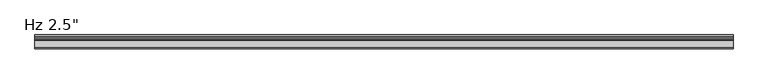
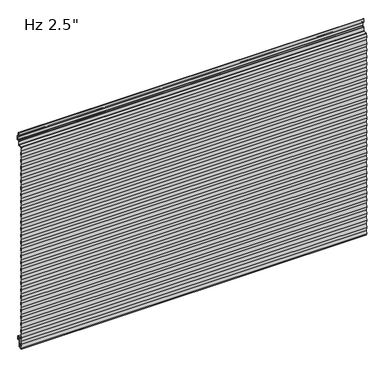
"""IFC4 building model written with IfcOpenShell, lengths in millimetres: plate geometry."""

from ifc_helpers import new_model, si_unit, point, frame, origin, place, context, project, spatial, polyline, circle_curve, ellipse_curve, trimmed, source, transform, mapped, element, save
from ifc_brep_helpers import plane_surface, cylinder_surface, revolved_surface, extruded_surface, advanced_brep


def plate_efaa990c(model_context):
    return source(origin(), model_context, "Body", "AdvancedBrep", [
        advanced_brep(
        [(-730.0, -38.1, -23.2314549), (-730.0, -39.6875, -23.2314549), (-730.0, -39.6875, -11.9205174), (-730.0, -47.625, -11.9205174), (-730.0, -47.625, -50.1038221), (-730.0, -49.881625, -52.4818086), (-730.0, -64.0543553, -53.22457), (-730.0, -64.7509395, -48.8709186), (-730.0, -62.3125395, -33.6309186), (-730.0, -64.7509395, -18.3909186), (-730.0, -62.3125395, -3.1509186), (-730.0, -64.7509395, 12.0890814), (-730.0, -62.3125395, 27.3290814), (-730.0, -64.7509395, 42.5690814), (-730.0, -62.3125395, 57.8090814), (-730.0, -64.7509395, 73.0490814), (-730.0, -62.3125395, 88.2890814), (-730.0, -64.7509395, 103.5290814), (-730.0, -62.3125395, 118.7690814), (-730.0, -64.7509395, 134.0090814), (-730.0, -62.3125395, 149.2490814), (-730.0, -64.7509395, 164.4890814), (-730.0, -62.3125395, 179.7290814), (-730.0, -64.7509395, 194.9690814), (-730.0, -62.3125395, 210.2090814), (-730.0, -64.7509395, 225.4490814), (-730.0, -62.3125395, 240.6890814), (-730.0, -64.7509395, 255.9290814), (-730.0, -62.3125395, 271.1690814), (-730.0, -64.7509395, 286.4090814), (-730.0, -62.3125395, 301.6490814), (-730.0, -64.7509395, 316.8890814), (-730.0, -62.3125395, 332.1290814), (-730.0, -64.7509395, 347.3690814), (-730.0, -62.3125395, 362.6090814), (-730.0, -64.7509395, 377.8490814), (-730.0, -62.3125395, 393.0890814), (-730.0, -64.7509395, 408.3290814), (-730.0, -62.3125395, 423.5690814), (-730.0, -64.7509395, 438.8090814), (-730.0, -62.3125395, 454.0490814), (-730.0, -64.7509395, 469.2890814), (-730.0, -62.3125395, 484.5290814), (-730.0, -64.7509395, 499.7690814), (-730.0, -62.3125395, 515.0090814), (-730.0, -64.7509395, 530.2490814), (-730.0, -62.3125395, 545.4890814), (-730.0, -64.7509395, 560.7290814), (-730.0, -62.3125395, 575.9690814), (-730.0, -64.7509395, 591.2090814), (-730.0, -62.3125395, 606.4490814), (-730.0, -64.7509395, 621.6890814), (-730.0, -62.3125395, 636.9290814), (-730.0, -64.7509395, 652.1690814), (-730.0, -62.3125395, 667.4090814), (-730.0, -64.7509395, 682.6490814), (-730.0, -62.3125395, 697.8890814), (-730.0, -64.7509395, 713.1290814), (-730.0, -62.3125395, 728.3690814), (-730.0, -64.7509395, 743.6090814), (-730.0, -62.3125395, 758.8490814), (-730.0, -64.7509395, 774.0890814), (-730.0, -62.3125395, 789.3290814), (-730.0, -64.7509395, 804.5690814), (-730.0, -62.3125395, 819.8090814), (-730.0, -64.7185287, 834.8465139), (-730.0, -62.7278537, 847.2882328), (-730.0, -61.243375, 848.6227473), (-730.0, -47.5419167, 849.3408103), (-730.0, -46.0375, 850.9261347), (-730.0, -46.0375, 865.0824411), (-730.0, -43.780875, 867.4604276), (-730.0, -38.0169167, 867.7625039), (-730.0, -36.5125, 869.3478283), (-730.0, -36.5125, 884.2232326), (-730.0, -38.1, 885.8107326), (-730.0, -42.2671875, 885.8107326), (-730.0, -44.6484375, 888.1919826), (-730.0, -44.6484375, 902.6836032), (-730.0, -42.8546875, 902.6836032), (-730.0, -42.8546875, 892.9544826), (-730.0, -43.6484375, 892.9544826), (-730.0, -43.6484375, 888.1919826), (-730.0, -42.2671875, 886.8107326), (-730.0, -38.1, 886.8107326), (-730.0, -35.5125, 884.2232326), (-730.0, -35.5125, 869.3478283), (-730.0, -37.9645807, 866.7638744), (-730.0, -43.728539, 866.4617981), (-730.0, -45.0375, 865.0824411), (-730.0, -45.0375, 850.9261347), (-730.0, -47.4895807, 848.3421807), (-730.0, -61.191039, 847.6241177), (-730.0, -61.740413, 847.1302423), (-730.0, -63.7058096, 834.8465139), (-730.0, -61.2998204, 819.8090814), (-730.0, -63.7382204, 804.5690814), (-730.0, -61.2998204, 789.3290814), (-730.0, -63.7382204, 774.0890814), (-730.0, -61.2998204, 758.8490814), (-730.0, -63.7382204, 743.6090814), (-730.0, -61.2998204, 728.3690814), (-730.0, -63.7382204, 713.1290814), (-730.0, -61.2998204, 697.8890814), (-730.0, -63.7382204, 682.6490814), (-730.0, -61.2998204, 667.4090814), (-730.0, -63.7382204, 652.1690814), (-730.0, -61.2998204, 636.9290814), (-730.0, -63.7382204, 621.6890814), (-730.0, -61.2998204, 606.4490814), (-730.0, -63.7382204, 591.2090814), (-730.0, -61.2998204, 575.9690814), (-730.0, -63.7382204, 560.7290814), (-730.0, -61.2998204, 545.4890814), (-730.0, -63.7382204, 530.2490814), (-730.0, -61.2998204, 515.0090814), (-730.0, -63.7382204, 499.7690814), (-730.0, -61.2998204, 484.5290814), (-730.0, -63.7382204, 469.2890814), (-730.0, -61.2998204, 454.0490814), (-730.0, -63.7382204, 438.8090814), (-730.0, -61.2998204, 423.5690814), (-730.0, -63.7382204, 408.3290814), (-730.0, -61.2998204, 393.0890814), (-730.0, -63.7382204, 377.8490814), (-730.0, -61.2998204, 362.6090814), (-730.0, -63.7382204, 347.3690814), (-730.0, -61.2998204, 332.1290814), (-730.0, -63.7382204, 316.8890814), (-730.0, -61.2998204, 301.6490814), (-730.0, -63.7382204, 286.4090814), (-730.0, -61.2998204, 271.1690814), (-730.0, -63.7382204, 255.9290814), (-730.0, -61.2998204, 240.6890814), (-730.0, -63.7382204, 225.4490814), (-730.0, -61.2998204, 210.2090814), (-730.0, -63.7382204, 194.9690814), (-730.0, -61.2998204, 179.7290814), (-730.0, -63.7382204, 164.4890814), (-730.0, -61.2998204, 149.2490814), (-730.0, -63.7382204, 134.0090814), (-730.0, -61.2998204, 118.7690814), (-730.0, -63.7382204, 103.5290814), (-730.0, -61.2998204, 88.2890814), (-730.0, -63.7382204, 73.0490814), (-730.0, -61.2998204, 57.8090814), (-730.0, -63.7382204, 42.5690814), (-730.0, -61.2998204, 27.3290814), (-730.0, -63.7382204, 12.0890814), (-730.0, -61.2998204, -3.1509186), (-730.0, -63.7382204, -18.3909186), (-730.0, -61.2998204, -33.6309186), (-730.0, -63.7382204, -48.8709186), (-730.0, -63.2089447, -52.1788915), (-730.0, -49.933961, -51.4831791), (-730.0, -48.625, -50.1038221), (-730.0, -48.625, -11.9205174), (-730.0, -38.6875, -11.9205174), (-730.0, -38.89375, -13.5080174), (-730.0, -38.1, -13.5080174), (730.0, -38.1, -23.2314549), (730.0, -38.1, -13.5080174), (730.0, -38.89375, -13.5080174), (730.0, -38.6875, -11.9205174), (730.0, -48.625, -11.9205174), (730.0, -48.625, -50.1038221), (730.0, -49.933961, -51.4831791), (730.0, -63.2089447, -52.1788915), (730.0, -63.7382204, -48.8709186), (730.0, -61.2998204, -33.6309186), (730.0, -63.7382204, -18.3909186), (730.0, -61.2998204, -3.1509186), (730.0, -63.7382204, 12.0890814), (730.0, -61.2998204, 27.3290814), (730.0, -63.7382204, 42.5690814), (730.0, -61.2998204, 57.8090814), (730.0, -63.7382204, 73.0490814), (730.0, -61.2998204, 88.2890814), (730.0, -63.7382204, 103.5290814), (730.0, -61.2998204, 118.7690814), (730.0, -63.7382204, 134.0090814), (730.0, -61.2998204, 149.2490814), (730.0, -63.7382204, 164.4890814), (730.0, -61.2998204, 179.7290814), (730.0, -63.7382204, 194.9690814), (730.0, -61.2998204, 210.2090814), (730.0, -63.7382204, 225.4490814), (730.0, -61.2998204, 240.6890814), (730.0, -63.7382204, 255.9290814), (730.0, -61.2998204, 271.1690814), (730.0, -63.7382204, 286.4090814), (730.0, -61.2998204, 301.6490814), (730.0, -63.7382204, 316.8890814), (730.0, -61.2998204, 332.1290814), (730.0, -63.7382204, 347.3690814), (730.0, -61.2998204, 362.6090814), (730.0, -63.7382204, 377.8490814), (730.0, -61.2998204, 393.0890814), (730.0, -63.7382204, 408.3290814), (730.0, -61.2998204, 423.5690814), (730.0, -63.7382204, 438.8090814), (730.0, -61.2998204, 454.0490814), (730.0, -63.7382204, 469.2890814), (730.0, -61.2998204, 484.5290814), (730.0, -63.7382204, 499.7690814), (730.0, -61.2998204, 515.0090814), (730.0, -63.7382204, 530.2490814), (730.0, -61.2998204, 545.4890814), (730.0, -63.7382204, 560.7290814), (730.0, -61.2998204, 575.9690814), (730.0, -63.7382204, 591.2090814), (730.0, -61.2998204, 606.4490814), (730.0, -63.7382204, 621.6890814), (730.0, -61.2998204, 636.9290814), (730.0, -63.7382204, 652.1690814), (730.0, -61.2998204, 667.4090814), (730.0, -63.7382204, 682.6490814), (730.0, -61.2998204, 697.8890814), (730.0, -63.7382204, 713.1290814), (730.0, -61.2998204, 728.3690814), (730.0, -63.7382204, 743.6090814), (730.0, -61.2998204, 758.8490814), (730.0, -63.7382204, 774.0890814), (730.0, -61.2998204, 789.3290814), (730.0, -63.7382204, 804.5690814), (730.0, -61.2998204, 819.8090814), (730.0, -63.7058096, 834.8465139), (730.0, -61.740413, 847.1302423), (730.0, -61.191039, 847.6241177), (730.0, -47.4895807, 848.3421807), (730.0, -45.0375, 850.9261347), (730.0, -45.0375, 865.0824411), (730.0, -43.728539, 866.4617981), (730.0, -37.9645807, 866.7638744), (730.0, -35.5125, 869.3478283), (730.0, -35.5125, 884.2232326), (730.0, -38.1, 886.8107326), (730.0, -42.2671875, 886.8107326), (730.0, -43.6484375, 888.1919826), (730.0, -43.6484375, 892.9544826), (730.0, -42.8546875, 892.9544826), (730.0, -42.8546875, 902.6836032), (730.0, -44.6484375, 902.6836032), (730.0, -44.6484375, 888.1919826), (730.0, -42.2671875, 885.8107326), (730.0, -38.1, 885.8107326), (730.0, -36.5125, 884.2232326), (730.0, -36.5125, 869.3478283), (730.0, -38.0169167, 867.7625039), (730.0, -43.780875, 867.4604276), (730.0, -46.0375, 865.0824411), (730.0, -46.0375, 850.9261347), (730.0, -47.5419167, 849.3408103), (730.0, -61.243375, 848.6227473), (730.0, -62.7278537, 847.2882328), (730.0, -64.7185287, 834.8465139), (730.0, -62.3125395, 819.8090814), (730.0, -64.7509395, 804.5690814), (730.0, -62.3125395, 789.3290814), (730.0, -64.7509395, 774.0890814), (730.0, -62.3125395, 758.8490814), (730.0, -64.7509395, 743.6090814), (730.0, -62.3125395, 728.3690814), (730.0, -64.7509395, 713.1290814), (730.0, -62.3125395, 697.8890814), (730.0, -64.7509395, 682.6490814), (730.0, -62.3125395, 667.4090814), (730.0, -64.7509395, 652.1690814), (730.0, -62.3125395, 636.9290814), (730.0, -64.7509395, 621.6890814), (730.0, -62.3125395, 606.4490814), (730.0, -64.7509395, 591.2090814), (730.0, -62.3125395, 575.9690814), (730.0, -64.7509395, 560.7290814), (730.0, -62.3125395, 545.4890814), (730.0, -64.7509395, 530.2490814), (730.0, -62.3125395, 515.0090814), (730.0, -64.7509395, 499.7690814), (730.0, -62.3125395, 484.5290814), (730.0, -64.7509395, 469.2890814), (730.0, -62.3125395, 454.0490814), (730.0, -64.7509395, 438.8090814), (730.0, -62.3125395, 423.5690814), (730.0, -64.7509395, 408.3290814), (730.0, -62.3125395, 393.0890814), (730.0, -64.7509395, 377.8490814), (730.0, -62.3125395, 362.6090814), (730.0, -64.7509395, 347.3690814), (730.0, -62.3125395, 332.1290814), (730.0, -64.7509395, 316.8890814), (730.0, -62.3125395, 301.6490814), (730.0, -64.7509395, 286.4090814), (730.0, -62.3125395, 271.1690814), (730.0, -64.7509395, 255.9290814), (730.0, -62.3125395, 240.6890814), (730.0, -64.7509395, 225.4490814), (730.0, -62.3125395, 210.2090814), (730.0, -64.7509395, 194.9690814), (730.0, -62.3125395, 179.7290814), (730.0, -64.7509395, 164.4890814), (730.0, -62.3125395, 149.2490814), (730.0, -64.7509395, 134.0090814), (730.0, -62.3125395, 118.7690814), (730.0, -64.7509395, 103.5290814), (730.0, -62.3125395, 88.2890814), (730.0, -64.7509395, 73.0490814), (730.0, -62.3125395, 57.8090814), (730.0, -64.7509395, 42.5690814), (730.0, -62.3125395, 27.3290814), (730.0, -64.7509395, 12.0890814), (730.0, -62.3125395, -3.1509186), (730.0, -64.7509395, -18.3909186), (730.0, -62.3125395, -33.6309186), (730.0, -64.7509395, -48.8709186), (730.0, -64.0543553, -53.22457), (730.0, -49.881625, -52.4818086), (730.0, -47.625, -50.1038221), (730.0, -47.625, -11.9205174), (730.0, -39.6875, -11.9205174), (730.0, -39.6875, -23.2314549)],
        [
            (0, 1, circle_curve(frame((-730.0, -38.89375, -23.2314549), z_axis=(-1.0, 0.0, 0.0), x_axis=(0.0, 0.0, 1.0)), 0.79375)),
            (1, 2),
            (2, 3, circle_curve(frame((-730.0, -43.65625, -11.9205174), z_axis=(1.0, 0.0, 0.0), x_axis=(0.0, 0.0, 1.0)), 3.96875)),
            (3, 4),
            (4, 5, circle_curve(frame((-730.0, -50.00625, -50.1038221), z_axis=(-1.0, 0.0, 0.0), x_axis=(0.0, 0.0, 1.0)), 2.38125)),
            (5, 6),
            (6, 7),
            (7, 8),
            (8, 9),
            (9, 10),
            (10, 11),
            (11, 12),
            (12, 13),
            (13, 14),
            (14, 15),
            (15, 16),
            (16, 17),
            (17, 18),
            (18, 19),
            (19, 20),
            (20, 21),
            (21, 22),
            (22, 23),
            (23, 24),
            (24, 25),
            (25, 26),
            (26, 27),
            (27, 28),
            (28, 29),
            (29, 30),
            (30, 31),
            (31, 32),
            (32, 33),
            (33, 34),
            (34, 35),
            (35, 36),
            (36, 37),
            (37, 38),
            (38, 39),
            (39, 40),
            (40, 41),
            (41, 42),
            (42, 43),
            (43, 44),
            (44, 45),
            (45, 46),
            (46, 47),
            (47, 48),
            (48, 49),
            (49, 50),
            (50, 51),
            (51, 52),
            (52, 53),
            (53, 54),
            (54, 55),
            (55, 56),
            (56, 57),
            (57, 58),
            (58, 59),
            (59, 60),
            (60, 61),
            (61, 62),
            (62, 63),
            (63, 64),
            (64, 65),
            (65, 66),
            (66, 67, circle_curve(frame((-730.0, -61.1602917, 847.0374229), z_axis=(-1.0, 0.0, 0.0), x_axis=(0.0, 0.0, 1.0)), 1.5875)),
            (67, 68),
            (68, 69, circle_curve(frame((-730.0, -47.625, 850.9261347), z_axis=(1.0, 0.0, 0.0), x_axis=(0.0, 0.0, 1.0)), 1.5875)),
            (69, 70),
            (70, 71, circle_curve(frame((-730.0, -43.65625, 865.0824411), z_axis=(-1.0, 0.0, 0.0), x_axis=(0.0, 0.0, 1.0)), 2.38125)),
            (71, 72),
            (72, 73, circle_curve(frame((-730.0, -38.1, 869.3478283), z_axis=(1.0, 0.0, 0.0), x_axis=(0.0, 0.0, 1.0)), 1.5875)),
            (73, 74),
            (74, 75, circle_curve(frame((-730.0, -38.1, 884.2232326), z_axis=(1.0, 0.0, 0.0), x_axis=(0.0, 0.0, 1.0)), 1.5875)),
            (75, 76),
            (76, 77, circle_curve(frame((-730.0, -42.2671875, 888.1919826), z_axis=(-1.0, 0.0, 0.0), x_axis=(0.0, 0.0, 1.0)), 2.38125)),
            (77, 78),
            (78, 79, ellipse_curve(frame((-730.0, -43.7515625, 902.6836032), z_axis=(-1.0, 0.0, 0.0), x_axis=(0.0, 1.0, 0.0)), 0.896875, 0.7852275)),
            (79, 80),
            (80, 81),
            (81, 82),
            (82, 83, circle_curve(frame((-730.0, -42.2671875, 888.1919826), z_axis=(1.0, 0.0, 0.0), x_axis=(0.0, 0.0, 1.0)), 1.38125)),
            (83, 84),
            (84, 85, circle_curve(frame((-730.0, -38.1, 884.2232326), z_axis=(-1.0, 0.0, 0.0), x_axis=(0.0, 0.0, 1.0)), 2.5875)),
            (85, 86),
            (86, 87, circle_curve(frame((-730.0, -38.1, 869.3478283), z_axis=(-1.0, 0.0, 0.0), x_axis=(0.0, 0.0, 1.0)), 2.5875)),
            (87, 88),
            (88, 89, circle_curve(frame((-730.0, -43.65625, 865.0824411), z_axis=(1.0, 0.0, 0.0), x_axis=(0.0, 0.0, 1.0)), 1.38125)),
            (89, 90),
            (90, 91, circle_curve(frame((-730.0, -47.625, 850.9261347), z_axis=(-1.0, 0.0, 0.0), x_axis=(0.0, 0.0, 1.0)), 2.5875)),
            (91, 92),
            (92, 93, circle_curve(frame((-730.0, -61.1602917, 847.0374229), z_axis=(1.0, 0.0, 0.0), x_axis=(0.0, 0.0, 1.0)), 0.5875)),
            (93, 94),
            (94, 95),
            (95, 96),
            (96, 97),
            (97, 98),
            (98, 99),
            (99, 100),
            (100, 101),
            (101, 102),
            (102, 103),
            (103, 104),
            (104, 105),
            (105, 106),
            (106, 107),
            (107, 108),
            (108, 109),
            (109, 110),
            (110, 111),
            (111, 112),
            (112, 113),
            (113, 114),
            (114, 115),
            (115, 116),
            (116, 117),
            (117, 118),
            (118, 119),
            (119, 120),
            (120, 121),
            (121, 122),
            (122, 123),
            (123, 124),
            (124, 125),
            (125, 126),
            (126, 127),
            (127, 128),
            (128, 129),
            (129, 130),
            (130, 131),
            (131, 132),
            (132, 133),
            (133, 134),
            (134, 135),
            (135, 136),
            (136, 137),
            (137, 138),
            (138, 139),
            (139, 140),
            (140, 141),
            (141, 142),
            (142, 143),
            (143, 144),
            (144, 145),
            (145, 146),
            (146, 147),
            (147, 148),
            (148, 149),
            (149, 150),
            (150, 151),
            (151, 152),
            (152, 153),
            (153, 154),
            (154, 155, circle_curve(frame((-730.0, -50.00625, -50.1038221), z_axis=(1.0, 0.0, 0.0), x_axis=(0.0, 0.0, 1.0)), 1.38125)),
            (155, 156),
            (156, 157, circle_curve(frame((-730.0, -43.65625, -11.9205174), z_axis=(-1.0, 0.0, 0.0), x_axis=(0.0, 0.0, 1.0)), 4.96875)),
            (157, 158),
            (158, 159),
            (159, 0),
            (160, 161),
            (161, 162),
            (162, 163),
            (163, 164, circle_curve(frame((730.0, -43.65625, -11.9205174), z_axis=(1.0, 0.0, 0.0), x_axis=(0.0, 0.0, 1.0)), 4.96875)),
            (164, 165),
            (165, 166, circle_curve(frame((730.0, -50.00625, -50.1038221), z_axis=(-1.0, 0.0, 0.0), x_axis=(0.0, 0.0, 1.0)), 1.38125)),
            (166, 167),
            (167, 168),
            (168, 169),
            (169, 170),
            (170, 171),
            (171, 172),
            (172, 173),
            (173, 174),
            (174, 175),
            (175, 176),
            (176, 177),
            (177, 178),
            (178, 179),
            (179, 180),
            (180, 181),
            (181, 182),
            (182, 183),
            (183, 184),
            (184, 185),
            (185, 186),
            (186, 187),
            (187, 188),
            (188, 189),
            (189, 190),
            (190, 191),
            (191, 192),
            (192, 193),
            (193, 194),
            (194, 195),
            (195, 196),
            (196, 197),
            (197, 198),
            (198, 199),
            (199, 200),
            (200, 201),
            (201, 202),
            (202, 203),
            (203, 204),
            (204, 205),
            (205, 206),
            (206, 207),
            (207, 208),
            (208, 209),
            (209, 210),
            (210, 211),
            (211, 212),
            (212, 213),
            (213, 214),
            (214, 215),
            (215, 216),
            (216, 217),
            (217, 218),
            (218, 219),
            (219, 220),
            (220, 221),
            (221, 222),
            (222, 223),
            (223, 224),
            (224, 225),
            (225, 226),
            (226, 227),
            (227, 228, circle_curve(frame((730.0, -61.1602917, 847.0374229), z_axis=(-1.0, 0.0, 0.0), x_axis=(0.0, 0.0, 1.0)), 0.5875)),
            (228, 229),
            (229, 230, circle_curve(frame((730.0, -47.625, 850.9261347), z_axis=(1.0, 0.0, 0.0), x_axis=(0.0, 0.0, 1.0)), 2.5875)),
            (230, 231),
            (231, 232, circle_curve(frame((730.0, -43.65625, 865.0824411), z_axis=(-1.0, 0.0, 0.0), x_axis=(0.0, 0.0, 1.0)), 1.38125)),
            (232, 233),
            (233, 234, circle_curve(frame((730.0, -38.1, 869.3478283), z_axis=(1.0, 0.0, 0.0), x_axis=(0.0, 0.0, 1.0)), 2.5875)),
            (234, 235),
            (235, 236, circle_curve(frame((730.0, -38.1, 884.2232326), z_axis=(1.0, 0.0, 0.0), x_axis=(0.0, 0.0, 1.0)), 2.5875)),
            (236, 237),
            (237, 238, circle_curve(frame((730.0, -42.2671875, 888.1919826), z_axis=(-1.0, 0.0, 0.0), x_axis=(0.0, 0.0, 1.0)), 1.38125)),
            (238, 239),
            (239, 240),
            (240, 241),
            (241, 242, ellipse_curve(frame((730.0, -43.7515625, 902.6836032), z_axis=(1.0, 0.0, 0.0), x_axis=(0.0, 1.0, 0.0)), 0.896875, 0.7852275)),
            (242, 243),
            (243, 244, circle_curve(frame((730.0, -42.2671875, 888.1919826), z_axis=(1.0, 0.0, 0.0), x_axis=(0.0, 0.0, 1.0)), 2.38125)),
            (244, 245),
            (245, 246, circle_curve(frame((730.0, -38.1, 884.2232326), z_axis=(-1.0, 0.0, 0.0), x_axis=(0.0, 0.0, 1.0)), 1.5875)),
            (246, 247),
            (247, 248, circle_curve(frame((730.0, -38.1, 869.3478283), z_axis=(-1.0, 0.0, 0.0), x_axis=(0.0, 0.0, 1.0)), 1.5875)),
            (248, 249),
            (249, 250, circle_curve(frame((730.0, -43.65625, 865.0824411), z_axis=(1.0, 0.0, 0.0), x_axis=(0.0, 0.0, 1.0)), 2.38125)),
            (250, 251),
            (251, 252, circle_curve(frame((730.0, -47.625, 850.9261347), z_axis=(-1.0, 0.0, 0.0), x_axis=(0.0, 0.0, 1.0)), 1.5875)),
            (252, 253),
            (253, 254, circle_curve(frame((730.0, -61.1602917, 847.0374229), z_axis=(1.0, 0.0, 0.0), x_axis=(0.0, 0.0, 1.0)), 1.5875)),
            (254, 255),
            (255, 256),
            (256, 257),
            (257, 258),
            (258, 259),
            (259, 260),
            (260, 261),
            (261, 262),
            (262, 263),
            (263, 264),
            (264, 265),
            (265, 266),
            (266, 267),
            (267, 268),
            (268, 269),
            (269, 270),
            (270, 271),
            (271, 272),
            (272, 273),
            (273, 274),
            (274, 275),
            (275, 276),
            (276, 277),
            (277, 278),
            (278, 279),
            (279, 280),
            (280, 281),
            (281, 282),
            (282, 283),
            (283, 284),
            (284, 285),
            (285, 286),
            (286, 287),
            (287, 288),
            (288, 289),
            (289, 290),
            (290, 291),
            (291, 292),
            (292, 293),
            (293, 294),
            (294, 295),
            (295, 296),
            (296, 297),
            (297, 298),
            (298, 299),
            (299, 300),
            (300, 301),
            (301, 302),
            (302, 303),
            (303, 304),
            (304, 305),
            (305, 306),
            (306, 307),
            (307, 308),
            (308, 309),
            (309, 310),
            (310, 311),
            (311, 312),
            (312, 313),
            (313, 314),
            (314, 315),
            (315, 316, circle_curve(frame((730.0, -50.00625, -50.1038221), z_axis=(1.0, 0.0, 0.0), x_axis=(0.0, 0.0, 1.0)), 2.38125)),
            (316, 317),
            (317, 318, circle_curve(frame((730.0, -43.65625, -11.9205174), z_axis=(-1.0, 0.0, 0.0), x_axis=(0.0, 0.0, 1.0)), 3.96875)),
            (318, 319),
            (319, 160, circle_curve(frame((730.0, -38.89375, -23.2314549), z_axis=(1.0, 0.0, 0.0), x_axis=(0.0, 0.0, 1.0)), 0.79375)),
            (108, 212),
            (211, 109),
            (210, 110),
            (209, 111),
            (208, 112),
            (207, 113),
            (206, 114),
            (205, 115),
            (204, 116),
            (203, 117),
            (202, 118),
            (201, 119),
            (200, 120),
            (199, 121),
            (153, 167),
            (166, 154),
            (165, 155),
            (164, 156),
            (163, 157),
            (158, 162),
            (161, 159),
            (80, 240),
            (239, 81),
            (79, 241),
            (78, 242),
            (67, 253),
            (252, 68),
            (91, 229),
            (228, 92),
            (64, 256),
            (255, 65),
            (94, 226),
            (225, 95),
            (224, 96),
            (223, 97),
            (222, 98),
            (221, 99),
            (220, 100),
            (219, 101),
            (218, 102),
            (217, 103),
            (216, 104),
            (215, 105),
            (214, 106),
            (213, 107),
            (24, 296),
            (295, 25),
            (294, 26),
            (293, 27),
            (292, 28),
            (291, 29),
            (290, 30),
            (289, 31),
            (288, 32),
            (287, 33),
            (286, 34),
            (285, 35),
            (284, 36),
            (137, 183),
            (182, 138),
            (181, 139),
            (180, 140),
            (179, 141),
            (178, 142),
            (58, 262),
            (261, 59),
            (260, 60),
            (259, 61),
            (258, 62),
            (257, 63),
            (254, 66),
            (227, 93),
            (123, 197),
            (196, 124),
            (195, 125),
            (194, 126),
            (193, 127),
            (192, 128),
            (191, 129),
            (190, 130),
            (189, 131),
            (188, 132),
            (187, 133),
            (186, 134),
            (185, 135),
            (184, 136),
            (22, 298),
            (297, 23),
            (15, 305),
            (304, 16),
            (13, 307),
            (306, 14),
            (146, 174),
            (173, 147),
            (144, 176),
            (175, 145),
            (12, 308),
            (21, 299),
            (19, 301),
            (300, 20),
            (143, 177),
            (17, 303),
            (302, 18),
            (56, 264),
            (263, 57),
            (54, 266),
            (265, 55),
            (52, 268),
            (267, 53),
            (50, 270),
            (269, 51),
            (48, 272),
            (271, 49),
            (46, 274),
            (273, 47),
            (44, 276),
            (275, 45),
            (42, 278),
            (277, 43),
            (40, 280),
            (279, 41),
            (38, 282),
            (281, 39),
            (283, 37),
            (10, 310),
            (309, 11),
            (8, 312),
            (311, 9),
            (6, 314),
            (313, 7),
            (151, 169),
            (168, 152),
            (149, 171),
            (170, 150),
            (172, 148),
            (198, 122),
            (90, 230),
            (88, 232),
            (231, 89),
            (86, 234),
            (233, 87),
            (82, 238),
            (237, 83),
            (84, 236),
            (235, 85),
            (77, 243),
            (75, 245),
            (244, 76),
            (73, 247),
            (246, 74),
            (71, 249),
            (248, 72),
            (69, 251),
            (250, 70),
            (5, 315),
            (3, 317),
            (316, 4),
            (1, 319),
            (318, 2),
            (160, 0),
        ],
        [
            plane_surface(frame((-730.0, -63.5, 457.2), z_axis=(-1.0, 0.0, 0.0), x_axis=(0.0, -1.0, 0.0))),
            plane_surface(frame((730.0, -63.5, 457.2), z_axis=(1.0, 0.0, 0.0), x_axis=(0.0, -1.0, 0.0))),
            plane_surface(frame((-730.0, -61.2998204, 606.4490814), z_axis=(0.0, 0.9874406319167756, 0.15799050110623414), x_axis=(1.0, 0.0, 0.0))),
            plane_surface(frame((-730.0, -63.7382204, 591.2090814), z_axis=(0.0, 0.987440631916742, -0.15799050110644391), x_axis=(1.0, 0.0, 0.0))),
            plane_surface(frame((-730.0, -61.2998204, 575.9690814), z_axis=(0.0, 0.987440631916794, 0.1579905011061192), x_axis=(1.0, 0.0, 0.0))),
            plane_surface(frame((-730.0, -63.7382204, 560.7290814), z_axis=(0.0, 0.987440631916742, -0.15799050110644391), x_axis=(1.0, 0.0, 0.0))),
            plane_surface(frame((-730.0, -61.2998204, 545.4890814), z_axis=(0.0, 0.9874406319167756, 0.15799050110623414), x_axis=(1.0, 0.0, 0.0))),
            plane_surface(frame((-730.0, -63.7382204, 530.2490814), z_axis=(0.0, 0.9874406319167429, -0.15799050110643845), x_axis=(1.0, 0.0, 0.0))),
            plane_surface(frame((-730.0, -61.2998204, 515.0090814), z_axis=(0.0, 0.9874406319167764, 0.15799050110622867), x_axis=(1.0, 0.0, 0.0))),
            plane_surface(frame((-730.0, -63.7382204, 499.7690814), z_axis=(0.0, 0.9874406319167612, -0.1579905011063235), x_axis=(1.0, 0.0, 0.0))),
            plane_surface(frame((-730.0, -61.2998204, 484.5290814), z_axis=(0.0, 0.9874406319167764, 0.15799050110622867), x_axis=(1.0, 0.0, 0.0))),
            plane_surface(frame((-730.0, -63.7382204, 469.2890814), z_axis=(0.0, 0.987440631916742, -0.15799050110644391), x_axis=(1.0, 0.0, 0.0))),
            plane_surface(frame((-730.0, -61.2998204, 454.0490814), z_axis=(0.0, 0.9874406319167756, 0.15799050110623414), x_axis=(1.0, 0.0, 0.0))),
            plane_surface(frame((-730.0, -63.7382204, 438.8090814), z_axis=(0.0, 0.987440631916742, -0.15799050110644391), x_axis=(1.0, 0.0, 0.0))),
            plane_surface(frame((-730.0, -61.2998204, 423.5690814), z_axis=(0.0, 0.987440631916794, 0.1579905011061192), x_axis=(1.0, 0.0, 0.0))),
            plane_surface(frame((-730.0, -49.933961, -51.4831791), z_axis=(0.0, -0.052335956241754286, 0.9986295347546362), x_axis=(1.0, 0.0, 0.0))),
            revolved_surface(polyline([(730.0, -50.00625, -48.7225721), (-730.0, -50.00625, -48.7225721)]), (-730.0, -50.00625, -50.1038221), (1.0, 0.0, 0.0)),
            plane_surface(frame((-730.0, -48.625, -11.9205174), z_axis=(0.0, -1.0, 0.0), x_axis=(1.0, 0.0, 0.0))),
            cylinder_surface(frame((-730.0, -43.65625, -11.9205174), z_axis=(-1.0, 0.0, 0.0), x_axis=(0.0, 0.0, 1.0)), 4.96875),
            plane_surface(frame((-730.0, -38.1, -13.5080174), z_axis=(0.0, 0.0, 1.0), x_axis=(1.0, 0.0, 0.0))),
            plane_surface(frame((-730.0, -38.89375, -13.5080174), z_axis=(0.0, 0.9916655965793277, -0.12883844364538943), x_axis=(1.0, 0.0, 0.0))),
            plane_surface(frame((-730.0, -43.6484375, 892.9544826), z_axis=(0.0, 0.0, -1.0), x_axis=(1.0, 0.0, 0.0))),
            plane_surface(frame((-730.0, -42.8546875, 892.9544826), z_axis=(0.0, 1.0, 0.0), x_axis=(1.0, 0.0, 0.0))),
            extruded_surface(trimmed(ellipse_curve(frame((-730.0, -43.7515625, 902.6836032), z_axis=(1.0, 0.0, 0.0), x_axis=(0.0, 1.0, 0.0)), 0.896875, 0.7852275), [point((-730.0, -42.8546875, 902.6836032))], [point((-730.0, -44.6484375, 902.6836032))], True, "CARTESIAN"), (1460.0, 0.0, 0.0), 1460.0),
            plane_surface(frame((-730.0, -47.5419167, 849.3408103), z_axis=(0.0, -0.052335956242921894, 0.998629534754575), x_axis=(1.0, 0.0, 0.0))),
            plane_surface(frame((-730.0, -61.191039, 847.6241177), z_axis=(0.0, 0.05233595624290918, -0.9986295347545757), x_axis=(1.0, 0.0, 0.0))),
            plane_surface(frame((-730.0, -64.7185287, 834.8465139), z_axis=(0.0, -0.9874406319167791, -0.15799050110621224), x_axis=(1.0, 0.0, 0.0))),
            plane_surface(frame((-730.0, -61.2998204, 819.8090814), z_axis=(0.0, 0.9874406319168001, 0.15799050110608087), x_axis=(1.0, 0.0, 0.0))),
            plane_surface(frame((-730.0, -63.7382204, 804.5690814), z_axis=(0.0, 0.9874406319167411, -0.15799050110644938), x_axis=(1.0, 0.0, 0.0))),
            plane_surface(frame((-730.0, -61.2998204, 789.3290814), z_axis=(0.0, 0.987440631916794, 0.1579905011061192), x_axis=(1.0, 0.0, 0.0))),
            plane_surface(frame((-730.0, -63.7382204, 774.0890814), z_axis=(0.0, 0.987440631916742, -0.15799050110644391), x_axis=(1.0, 0.0, 0.0))),
            plane_surface(frame((-730.0, -61.2998204, 758.8490814), z_axis=(0.0, 0.987440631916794, 0.1579905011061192), x_axis=(1.0, 0.0, 0.0))),
            plane_surface(frame((-730.0, -63.7382204, 743.6090814), z_axis=(0.0, 0.987440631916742, -0.15799050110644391), x_axis=(1.0, 0.0, 0.0))),
            plane_surface(frame((-730.0, -61.2998204, 728.3690814), z_axis=(0.0, 0.987440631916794, 0.1579905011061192), x_axis=(1.0, 0.0, 0.0))),
            plane_surface(frame((-730.0, -63.7382204, 713.1290814), z_axis=(0.0, 0.987440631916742, -0.15799050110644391), x_axis=(1.0, 0.0, 0.0))),
            plane_surface(frame((-730.0, -61.2998204, 697.8890814), z_axis=(0.0, 0.9874406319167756, 0.15799050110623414), x_axis=(1.0, 0.0, 0.0))),
            plane_surface(frame((-730.0, -63.7382204, 682.6490814), z_axis=(0.0, 0.9874406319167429, -0.15799050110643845), x_axis=(1.0, 0.0, 0.0))),
            plane_surface(frame((-730.0, -61.2998204, 667.4090814), z_axis=(0.0, 0.9874406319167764, 0.15799050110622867), x_axis=(1.0, 0.0, 0.0))),
            plane_surface(frame((-730.0, -63.7382204, 652.1690814), z_axis=(0.0, 0.9874406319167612, -0.1579905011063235), x_axis=(1.0, 0.0, 0.0))),
            plane_surface(frame((-730.0, -61.2998204, 636.9290814), z_axis=(0.0, 0.9874406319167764, 0.15799050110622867), x_axis=(1.0, 0.0, 0.0))),
            plane_surface(frame((-730.0, -63.7382204, 621.6890814), z_axis=(0.0, 0.987440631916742, -0.15799050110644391), x_axis=(1.0, 0.0, 0.0))),
            plane_surface(frame((-730.0, -64.7509395, 225.4490814), z_axis=(0.0, -0.9874406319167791, -0.15799050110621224), x_axis=(1.0, 0.0, 0.0))),
            plane_surface(frame((-730.0, -62.3125395, 240.6890814), z_axis=(0.0, -0.9874406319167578, 0.15799050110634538), x_axis=(1.0, 0.0, 0.0))),
            plane_surface(frame((-730.0, -64.7509395, 255.9290814), z_axis=(0.0, -0.9874406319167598, -0.15799050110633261), x_axis=(1.0, 0.0, 0.0))),
            plane_surface(frame((-730.0, -62.3125395, 271.1690814), z_axis=(0.0, -0.9874406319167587, 0.15799050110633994), x_axis=(1.0, 0.0, 0.0))),
            plane_surface(frame((-730.0, -64.7509395, 286.4090814), z_axis=(0.0, -0.9874406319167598, -0.15799050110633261), x_axis=(1.0, 0.0, 0.0))),
            plane_surface(frame((-730.0, -62.3125395, 301.6490814), z_axis=(0.0, -0.9874406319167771, 0.157990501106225), x_axis=(1.0, 0.0, 0.0))),
            plane_surface(frame((-730.0, -64.7509395, 316.8890814), z_axis=(0.0, -0.9874406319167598, -0.15799050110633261), x_axis=(1.0, 0.0, 0.0))),
            plane_surface(frame((-730.0, -62.3125395, 332.1290814), z_axis=(0.0, -0.9874406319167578, 0.15799050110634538), x_axis=(1.0, 0.0, 0.0))),
            plane_surface(frame((-730.0, -64.7509395, 347.3690814), z_axis=(0.0, -0.9874406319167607, -0.15799050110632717), x_axis=(1.0, 0.0, 0.0))),
            plane_surface(frame((-730.0, -62.3125395, 362.6090814), z_axis=(0.0, -0.9874406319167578, 0.15799050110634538), x_axis=(1.0, 0.0, 0.0))),
            plane_surface(frame((-730.0, -64.7509395, 377.8490814), z_axis=(0.0, -0.9874406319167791, -0.15799050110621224), x_axis=(1.0, 0.0, 0.0))),
            plane_surface(frame((-730.0, -62.3125395, 393.0890814), z_axis=(0.0, -0.9874406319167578, 0.15799050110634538), x_axis=(1.0, 0.0, 0.0))),
            plane_surface(frame((-730.0, -63.7382204, 164.4890814), z_axis=(0.0, 0.987440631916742, -0.15799050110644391), x_axis=(1.0, 0.0, 0.0))),
            plane_surface(frame((-730.0, -61.2998204, 149.2490814), z_axis=(0.0, 0.9874406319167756, 0.15799050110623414), x_axis=(1.0, 0.0, 0.0))),
            plane_surface(frame((-730.0, -63.7382204, 134.0090814), z_axis=(0.0, 0.987440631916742, -0.15799050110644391), x_axis=(1.0, 0.0, 0.0))),
            plane_surface(frame((-730.0, -61.2998204, 118.7690814), z_axis=(0.0, 0.987440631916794, 0.1579905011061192), x_axis=(1.0, 0.0, 0.0))),
            plane_surface(frame((-730.0, -63.7382204, 103.5290814), z_axis=(0.0, 0.987440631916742, -0.15799050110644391), x_axis=(1.0, 0.0, 0.0))),
            plane_surface(frame((-730.0, -64.7509395, 743.6090814), z_axis=(0.0, -0.9874406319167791, -0.15799050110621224), x_axis=(1.0, 0.0, 0.0))),
            plane_surface(frame((-730.0, -62.3125395, 758.8490814), z_axis=(0.0, -0.9874406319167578, 0.15799050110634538), x_axis=(1.0, 0.0, 0.0))),
            plane_surface(frame((-730.0, -64.7509395, 774.0890814), z_axis=(0.0, -0.9874406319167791, -0.15799050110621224), x_axis=(1.0, 0.0, 0.0))),
            plane_surface(frame((-730.0, -62.3125395, 789.3290814), z_axis=(0.0, -0.9874406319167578, 0.15799050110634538), x_axis=(1.0, 0.0, 0.0))),
            plane_surface(frame((-730.0, -64.7509395, 804.5690814), z_axis=(0.0, -0.9874406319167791, -0.15799050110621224), x_axis=(1.0, 0.0, 0.0))),
            plane_surface(frame((-730.0, -62.3125395, 819.8090814), z_axis=(0.0, -0.9874406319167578, 0.15799050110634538), x_axis=(1.0, 0.0, 0.0))),
            plane_surface(frame((-730.0, -62.7278537, 847.2882328), z_axis=(0.0, -0.9874406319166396, 0.15799050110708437), x_axis=(1.0, 0.0, 0.0))),
            cylinder_surface(frame((-730.0, -61.1602917, 847.0374229), z_axis=(-1.0, 0.0, 0.0), x_axis=(0.0, 0.0, 1.0)), 1.5875),
            revolved_surface(polyline([(730.0, -61.1602917, 847.6249229), (-730.0, -61.1602917, 847.6249229)]), (-730.0, -61.1602917, 847.0374229), (1.0, 0.0, 0.0)),
            plane_surface(frame((-730.0, -63.7058096, 834.8465139), z_axis=(0.0, 0.9874406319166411, -0.15799050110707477), x_axis=(1.0, 0.0, 0.0))),
            plane_surface(frame((-730.0, -63.7382204, 377.8490814), z_axis=(0.0, 0.987440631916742, -0.15799050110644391), x_axis=(1.0, 0.0, 0.0))),
            plane_surface(frame((-730.0, -61.2998204, 362.6090814), z_axis=(0.0, 0.987440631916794, 0.1579905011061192), x_axis=(1.0, 0.0, 0.0))),
            plane_surface(frame((-730.0, -63.7382204, 347.3690814), z_axis=(0.0, 0.987440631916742, -0.15799050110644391), x_axis=(1.0, 0.0, 0.0))),
            plane_surface(frame((-730.0, -61.2998204, 332.1290814), z_axis=(0.0, 0.9874406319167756, 0.15799050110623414), x_axis=(1.0, 0.0, 0.0))),
            plane_surface(frame((-730.0, -63.7382204, 316.8890814), z_axis=(0.0, 0.9874406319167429, -0.15799050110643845), x_axis=(1.0, 0.0, 0.0))),
            plane_surface(frame((-730.0, -61.2998204, 301.6490814), z_axis=(0.0, 0.9874406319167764, 0.15799050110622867), x_axis=(1.0, 0.0, 0.0))),
            plane_surface(frame((-730.0, -63.7382204, 286.4090814), z_axis=(0.0, 0.9874406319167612, -0.1579905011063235), x_axis=(1.0, 0.0, 0.0))),
            plane_surface(frame((-730.0, -61.2998204, 271.1690814), z_axis=(0.0, 0.9874406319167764, 0.15799050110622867), x_axis=(1.0, 0.0, 0.0))),
            plane_surface(frame((-730.0, -63.7382204, 255.9290814), z_axis=(0.0, 0.987440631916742, -0.15799050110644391), x_axis=(1.0, 0.0, 0.0))),
            plane_surface(frame((-730.0, -61.2998204, 240.6890814), z_axis=(0.0, 0.9874406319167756, 0.15799050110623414), x_axis=(1.0, 0.0, 0.0))),
            plane_surface(frame((-730.0, -63.7382204, 225.4490814), z_axis=(0.0, 0.987440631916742, -0.15799050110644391), x_axis=(1.0, 0.0, 0.0))),
            plane_surface(frame((-730.0, -61.2998204, 210.2090814), z_axis=(0.0, 0.987440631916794, 0.1579905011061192), x_axis=(1.0, 0.0, 0.0))),
            plane_surface(frame((-730.0, -63.7382204, 194.9690814), z_axis=(0.0, 0.987440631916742, -0.15799050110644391), x_axis=(1.0, 0.0, 0.0))),
            plane_surface(frame((-730.0, -61.2998204, 179.7290814), z_axis=(0.0, 0.9874406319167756, 0.15799050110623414), x_axis=(1.0, 0.0, 0.0))),
            plane_surface(frame((-730.0, -64.7509395, 194.9690814), z_axis=(0.0, -0.9874406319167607, -0.15799050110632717), x_axis=(1.0, 0.0, 0.0))),
            plane_surface(frame((-730.0, -62.3125395, 210.2090814), z_axis=(0.0, -0.9874406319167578, 0.15799050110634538), x_axis=(1.0, 0.0, 0.0))),
            plane_surface(frame((-730.0, -62.3125395, 88.2890814), z_axis=(0.0, -0.9874406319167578, 0.15799050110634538), x_axis=(1.0, 0.0, 0.0))),
            plane_surface(frame((-730.0, -62.3125395, 57.8090814), z_axis=(0.0, -0.9874406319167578, 0.15799050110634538), x_axis=(1.0, 0.0, 0.0))),
            plane_surface(frame((-730.0, -64.7509395, 73.0490814), z_axis=(0.0, -0.9874406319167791, -0.15799050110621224), x_axis=(1.0, 0.0, 0.0))),
            plane_surface(frame((-730.0, -61.2998204, 27.3290814), z_axis=(0.0, 0.9874406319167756, 0.15799050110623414), x_axis=(1.0, 0.0, 0.0))),
            plane_surface(frame((-730.0, -61.2998204, 57.8090814), z_axis=(0.0, 0.987440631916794, 0.1579905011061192), x_axis=(1.0, 0.0, 0.0))),
            plane_surface(frame((-730.0, -63.7382204, 42.5690814), z_axis=(0.0, 0.987440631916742, -0.15799050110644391), x_axis=(1.0, 0.0, 0.0))),
            plane_surface(frame((-730.0, -64.7509395, 42.5690814), z_axis=(0.0, -0.9874406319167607, -0.15799050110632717), x_axis=(1.0, 0.0, 0.0))),
            plane_surface(frame((-730.0, -62.3125395, 179.7290814), z_axis=(0.0, -0.9874406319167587, 0.15799050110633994), x_axis=(1.0, 0.0, 0.0))),
            plane_surface(frame((-730.0, -62.3125395, 149.2490814), z_axis=(0.0, -0.9874406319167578, 0.15799050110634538), x_axis=(1.0, 0.0, 0.0))),
            plane_surface(frame((-730.0, -64.7509395, 164.4890814), z_axis=(0.0, -0.9874406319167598, -0.15799050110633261), x_axis=(1.0, 0.0, 0.0))),
            plane_surface(frame((-730.0, -63.7382204, 73.0490814), z_axis=(0.0, 0.987440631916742, -0.15799050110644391), x_axis=(1.0, 0.0, 0.0))),
            plane_surface(frame((-730.0, -62.3125395, 118.7690814), z_axis=(0.0, -0.9874406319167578, 0.15799050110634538), x_axis=(1.0, 0.0, 0.0))),
            plane_surface(frame((-730.0, -61.2998204, 88.2890814), z_axis=(0.0, 0.9874406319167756, 0.15799050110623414), x_axis=(1.0, 0.0, 0.0))),
            plane_surface(frame((-730.0, -64.7509395, 103.5290814), z_axis=(0.0, -0.9874406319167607, -0.15799050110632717), x_axis=(1.0, 0.0, 0.0))),
            plane_surface(frame((-730.0, -64.7509395, 134.0090814), z_axis=(0.0, -0.9874406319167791, -0.15799050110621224), x_axis=(1.0, 0.0, 0.0))),
            plane_surface(frame((-730.0, -64.7509395, 713.1290814), z_axis=(0.0, -0.9874406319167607, -0.15799050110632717), x_axis=(1.0, 0.0, 0.0))),
            plane_surface(frame((-730.0, -64.7509395, 682.6490814), z_axis=(0.0, -0.9874406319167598, -0.15799050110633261), x_axis=(1.0, 0.0, 0.0))),
            plane_surface(frame((-730.0, -62.3125395, 697.8890814), z_axis=(0.0, -0.9874406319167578, 0.15799050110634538), x_axis=(1.0, 0.0, 0.0))),
            plane_surface(frame((-730.0, -62.3125395, 728.3690814), z_axis=(0.0, -0.9874406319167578, 0.15799050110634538), x_axis=(1.0, 0.0, 0.0))),
            plane_surface(frame((-730.0, -64.7509395, 652.1690814), z_axis=(0.0, -0.9874406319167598, -0.15799050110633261), x_axis=(1.0, 0.0, 0.0))),
            plane_surface(frame((-730.0, -64.7509395, 621.6890814), z_axis=(0.0, -0.9874406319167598, -0.15799050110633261), x_axis=(1.0, 0.0, 0.0))),
            plane_surface(frame((-730.0, -62.3125395, 636.9290814), z_axis=(0.0, -0.9874406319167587, 0.15799050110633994), x_axis=(1.0, 0.0, 0.0))),
            plane_surface(frame((-730.0, -62.3125395, 667.4090814), z_axis=(0.0, -0.9874406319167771, 0.157990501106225), x_axis=(1.0, 0.0, 0.0))),
            plane_surface(frame((-730.0, -64.7509395, 591.2090814), z_axis=(0.0, -0.9874406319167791, -0.15799050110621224), x_axis=(1.0, 0.0, 0.0))),
            plane_surface(frame((-730.0, -64.7509395, 560.7290814), z_axis=(0.0, -0.9874406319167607, -0.15799050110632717), x_axis=(1.0, 0.0, 0.0))),
            plane_surface(frame((-730.0, -62.3125395, 575.9690814), z_axis=(0.0, -0.9874406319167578, 0.15799050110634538), x_axis=(1.0, 0.0, 0.0))),
            plane_surface(frame((-730.0, -62.3125395, 606.4490814), z_axis=(0.0, -0.9874406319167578, 0.15799050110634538), x_axis=(1.0, 0.0, 0.0))),
            plane_surface(frame((-730.0, -64.7509395, 530.2490814), z_axis=(0.0, -0.9874406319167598, -0.15799050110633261), x_axis=(1.0, 0.0, 0.0))),
            plane_surface(frame((-730.0, -64.7509395, 499.7690814), z_axis=(0.0, -0.9874406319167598, -0.15799050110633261), x_axis=(1.0, 0.0, 0.0))),
            plane_surface(frame((-730.0, -62.3125395, 515.0090814), z_axis=(0.0, -0.9874406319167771, 0.157990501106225), x_axis=(1.0, 0.0, 0.0))),
            plane_surface(frame((-730.0, -62.3125395, 545.4890814), z_axis=(0.0, -0.9874406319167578, 0.15799050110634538), x_axis=(1.0, 0.0, 0.0))),
            plane_surface(frame((-730.0, -64.7509395, 469.2890814), z_axis=(0.0, -0.9874406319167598, -0.15799050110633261), x_axis=(1.0, 0.0, 0.0))),
            plane_surface(frame((-730.0, -64.7509395, 438.8090814), z_axis=(0.0, -0.9874406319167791, -0.15799050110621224), x_axis=(1.0, 0.0, 0.0))),
            plane_surface(frame((-730.0, -62.3125395, 454.0490814), z_axis=(0.0, -0.9874406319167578, 0.15799050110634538), x_axis=(1.0, 0.0, 0.0))),
            plane_surface(frame((-730.0, -62.3125395, 484.5290814), z_axis=(0.0, -0.9874406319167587, 0.15799050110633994), x_axis=(1.0, 0.0, 0.0))),
            plane_surface(frame((-730.0, -64.7509395, 408.3290814), z_axis=(0.0, -0.9874406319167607, -0.15799050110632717), x_axis=(1.0, 0.0, 0.0))),
            plane_surface(frame((-730.0, -62.3125395, 423.5690814), z_axis=(0.0, -0.9874406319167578, 0.15799050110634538), x_axis=(1.0, 0.0, 0.0))),
            plane_surface(frame((-730.0, -64.7509395, 12.0890814), z_axis=(0.0, -0.9874406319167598, -0.15799050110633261), x_axis=(1.0, 0.0, 0.0))),
            plane_surface(frame((-730.0, -62.3125395, 27.3290814), z_axis=(0.0, -0.9874406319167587, 0.15799050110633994), x_axis=(1.0, 0.0, 0.0))),
            plane_surface(frame((-730.0, -64.7509395, -18.3909186), z_axis=(0.0, -0.9874406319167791, -0.15799050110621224), x_axis=(1.0, 0.0, 0.0))),
            plane_surface(frame((-730.0, -64.7509395, -48.8709186), z_axis=(0.0, -0.9874406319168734, -0.15799050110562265), x_axis=(1.0, 0.0, 0.0))),
            plane_surface(frame((-730.0, -62.3125395, -33.6309186), z_axis=(0.0, -0.9874406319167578, 0.15799050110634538), x_axis=(1.0, 0.0, 0.0))),
            plane_surface(frame((-730.0, -62.3125395, -3.1509186), z_axis=(0.0, -0.9874406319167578, 0.15799050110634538), x_axis=(1.0, 0.0, 0.0))),
            plane_surface(frame((-730.0, -63.7382204, -48.8709186), z_axis=(0.0, 0.9874406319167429, -0.15799050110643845), x_axis=(1.0, 0.0, 0.0))),
            plane_surface(frame((-730.0, -63.7382204, -18.3909186), z_axis=(0.0, 0.987440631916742, -0.15799050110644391), x_axis=(1.0, 0.0, 0.0))),
            plane_surface(frame((-730.0, -61.2998204, -33.6309186), z_axis=(0.0, 0.987440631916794, 0.1579905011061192), x_axis=(1.0, 0.0, 0.0))),
            plane_surface(frame((-730.0, -63.2089447, -52.1788915), z_axis=(0.0, 0.987440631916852, 0.1579905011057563), x_axis=(1.0, 0.0, 0.0))),
            plane_surface(frame((-730.0, -63.7382204, 12.0890814), z_axis=(0.0, 0.987440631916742, -0.15799050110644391), x_axis=(1.0, 0.0, 0.0))),
            plane_surface(frame((-730.0, -61.2998204, -3.1509186), z_axis=(0.0, 0.9874406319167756, 0.15799050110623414), x_axis=(1.0, 0.0, 0.0))),
            plane_surface(frame((-730.0, -63.7382204, 408.3290814), z_axis=(0.0, 0.987440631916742, -0.15799050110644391), x_axis=(1.0, 0.0, 0.0))),
            plane_surface(frame((-730.0, -61.2998204, 393.0890814), z_axis=(0.0, 0.9874406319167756, 0.15799050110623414), x_axis=(1.0, 0.0, 0.0))),
            cylinder_surface(frame((-730.0, -47.625, 850.9261347), z_axis=(-1.0, 0.0, 0.0), x_axis=(0.0, 0.0, 1.0)), 2.5875),
            revolved_surface(polyline([(730.0, -43.65625, 866.4636911), (-730.0, -43.65625, 866.4636911)]), (-730.0, -43.65625, 865.0824411), (1.0, 0.0, 0.0)),
            cylinder_surface(frame((-730.0, -38.1, 869.3478283), z_axis=(-1.0, 0.0, 0.0), x_axis=(0.0, 0.0, 1.0)), 2.5875),
            plane_surface(frame((-730.0, -43.728539, 866.4617981), z_axis=(0.0, 0.0523359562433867, -0.9986295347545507), x_axis=(1.0, 0.0, 0.0))),
            plane_surface(frame((-730.0, -45.0375, 850.9261347), z_axis=(0.0, 1.0, 0.0), x_axis=(1.0, 0.0, 0.0))),
            revolved_surface(polyline([(730.0, -42.2671875, 889.5732326), (-730.0, -42.2671875, 889.5732326)]), (-730.0, -42.2671875, 888.1919826), (1.0, 0.0, 0.0)),
            cylinder_surface(frame((-730.0, -38.1, 884.2232326), z_axis=(-1.0, 0.0, 0.0), x_axis=(0.0, 0.0, 1.0)), 2.5875),
            plane_surface(frame((-730.0, -38.1, 886.8107326), z_axis=(0.0, 0.0, 1.0), x_axis=(1.0, 0.0, 0.0))),
            plane_surface(frame((-730.0, -43.6484375, 888.1919826), z_axis=(0.0, 1.0, 0.0), x_axis=(1.0, 0.0, 0.0))),
            plane_surface(frame((-730.0, -44.6484375, 902.6836032), z_axis=(0.0, -1.0, 0.0), x_axis=(1.0, 0.0, 0.0))),
            plane_surface(frame((-730.0, -42.2671875, 885.8107326), z_axis=(0.0, 0.0, -1.0), x_axis=(1.0, 0.0, 0.0))),
            cylinder_surface(frame((-730.0, -42.2671875, 888.1919826), z_axis=(-1.0, 0.0, 0.0), x_axis=(0.0, 0.0, 1.0)), 2.38125),
            plane_surface(frame((-730.0, -35.5125, 869.3478283), z_axis=(0.0, 1.0, 0.0), x_axis=(1.0, 0.0, 0.0))),
            plane_surface(frame((-730.0, -36.5125, 884.2232326), z_axis=(0.0, -1.0, 0.0), x_axis=(1.0, 0.0, 0.0))),
            plane_surface(frame((-730.0, -38.0169167, 867.7625039), z_axis=(0.0, -0.052335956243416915, 0.9986295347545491), x_axis=(1.0, 0.0, 0.0))),
            revolved_surface(polyline([(730.0, -38.1, 870.9353282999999), (-730.0, -38.1, 870.9353282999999)]), (-730.0, -38.1, 869.3478283), (1.0, 0.0, 0.0)),
            revolved_surface(polyline([(730.0, -38.1, 885.8107325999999), (-730.0, -38.1, 885.8107325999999)]), (-730.0, -38.1, 884.2232326), (1.0, 0.0, 0.0)),
            plane_surface(frame((-730.0, -46.0375, 865.0824411), z_axis=(0.0, -1.0, 0.0), x_axis=(1.0, 0.0, 0.0))),
            revolved_surface(polyline([(730.0, -47.625, 852.5136347), (-730.0, -47.625, 852.5136347)]), (-730.0, -47.625, 850.9261347), (1.0, 0.0, 0.0)),
            cylinder_surface(frame((-730.0, -43.65625, 865.0824411), z_axis=(-1.0, 0.0, 0.0), x_axis=(0.0, 0.0, 1.0)), 2.38125),
            plane_surface(frame((-730.0, -64.0543553, -53.22457), z_axis=(0.0, 0.052335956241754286, -0.9986295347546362), x_axis=(1.0, 0.0, 0.0))),
            plane_surface(frame((-730.0, -47.625, -50.1038221), z_axis=(0.0, 1.0, 0.0), x_axis=(1.0, 0.0, 0.0))),
            plane_surface(frame((-730.0, -39.6875, -11.9205174), z_axis=(0.0, -1.0, 0.0), x_axis=(1.0, 0.0, 0.0))),
            revolved_surface(polyline([(730.0, -43.65625, -7.9517674), (-730.0, -43.65625, -7.9517674)]), (-730.0, -43.65625, -11.9205174), (1.0, 0.0, 0.0)),
            cylinder_surface(frame((-730.0, -50.00625, -50.1038221), z_axis=(-1.0, 0.0, 0.0), x_axis=(0.0, 0.0, 1.0)), 2.38125),
            plane_surface(frame((-730.0, -38.1, -23.2314549), z_axis=(0.0, 1.0, 0.0), x_axis=(1.0, 0.0, 0.0))),
            cylinder_surface(frame((-730.0, -38.89375, -23.2314549), z_axis=(-1.0, 0.0, 0.0), x_axis=(0.0, 0.0, 1.0)), 0.79375),
        ],
        [
            (0, [[1, 2, 3, 4, 5, 6, 7, 8, 9, 10, 11, 12, 13, 14, 15, 16, 17, 18, 19, 20, 21, 22, 23, 24, 25, 26, 27, 28, 29, 30, 31, 32, 33, 34, 35, 36, 37, 38, 39, 40, 41, 42, 43, 44, 45, 46, 47, 48, 49, 50, 51, 52, 53, 54, 55, 56, 57, 58, 59, 60, 61, 62, 63, 64, 65, 66, 67, 68, 69, 70, 71, 72, 73, 74, 75, 76, 77, 78, 79, 80, 81, 82, 83, 84, 85, 86, 87, 88, 89, 90, 91, 92, 93, 94, 95, 96, 97, 98, 99, 100, 101, 102, 103, 104, 105, 106, 107, 108, 109, 110, 111, 112, 113, 114, 115, 116, 117, 118, 119, 120, 121, 122, 123, 124, 125, 126, 127, 128, 129, 130, 131, 132, 133, 134, 135, 136, 137, 138, 139, 140, 141, 142, 143, 144, 145, 146, 147, 148, 149, 150, 151, 152, 153, 154, 155, 156, 157, 158, 159, 160]]),
            (1, [[161, 162, 163, 164, 165, 166, 167, 168, 169, 170, 171, 172, 173, 174, 175, 176, 177, 178, 179, 180, 181, 182, 183, 184, 185, 186, 187, 188, 189, 190, 191, 192, 193, 194, 195, 196, 197, 198, 199, 200, 201, 202, 203, 204, 205, 206, 207, 208, 209, 210, 211, 212, 213, 214, 215, 216, 217, 218, 219, 220, 221, 222, 223, 224, 225, 226, 227, 228, 229, 230, 231, 232, 233, 234, 235, 236, 237, 238, 239, 240, 241, 242, 243, 244, 245, 246, 247, 248, 249, 250, 251, 252, 253, 254, 255, 256, 257, 258, 259, 260, 261, 262, 263, 264, 265, 266, 267, 268, 269, 270, 271, 272, 273, 274, 275, 276, 277, 278, 279, 280, 281, 282, 283, 284, 285, 286, 287, 288, 289, 290, 291, 292, 293, 294, 295, 296, 297, 298, 299, 300, 301, 302, 303, 304, 305, 306, 307, 308, 309, 310, 311, 312, 313, 314, 315, 316, 317, 318, 319, 320]]),
            (2, [[321, -212, 322, -109]]),
            (3, [[-322, -211, 323, -110]]),
            (4, [[-323, -210, 324, -111]]),
            (5, [[-324, -209, 325, -112]]),
            (6, [[-325, -208, 326, -113]]),
            (7, [[-326, -207, 327, -114]]),
            (8, [[-327, -206, 328, -115]]),
            (9, [[-328, -205, 329, -116]]),
            (10, [[-329, -204, 330, -117]]),
            (11, [[-330, -203, 331, -118]]),
            (12, [[-331, -202, 332, -119]]),
            (13, [[-332, -201, 333, -120]]),
            (14, [[-333, -200, 334, -121]]),
            (15, [[335, -167, 336, -154]]),
            (16, [[-336, -166, 337, -155]]),
            (17, [[-337, -165, 338, -156]]),
            (18, [[-338, -164, 339, -157]]),
            (19, [[340, -162, 341, -159]]),
            (20, [[-339, -163, -340, -158]]),
            (21, [[342, -240, 343, -81]]),
            (22, [[344, -241, -342, -80]]),
            (23, [[345, -242, -344, -79]]),
            (24, [[346, -253, 347, -68]]),
            (25, [[348, -229, 349, -92]]),
            (26, [[350, -256, 351, -65]]),
            (27, [[352, -226, 353, -95]]),
            (28, [[-353, -225, 354, -96]]),
            (29, [[-354, -224, 355, -97]]),
            (30, [[-355, -223, 356, -98]]),
            (31, [[-356, -222, 357, -99]]),
            (32, [[-357, -221, 358, -100]]),
            (33, [[-358, -220, 359, -101]]),
            (34, [[-359, -219, 360, -102]]),
            (35, [[-360, -218, 361, -103]]),
            (36, [[-361, -217, 362, -104]]),
            (37, [[-362, -216, 363, -105]]),
            (38, [[-363, -215, 364, -106]]),
            (39, [[-364, -214, 365, -107]]),
            (40, [[-365, -213, -321, -108]]),
            (41, [[366, -296, 367, -25]]),
            (42, [[-367, -295, 368, -26]]),
            (43, [[-368, -294, 369, -27]]),
            (44, [[-369, -293, 370, -28]]),
            (45, [[-370, -292, 371, -29]]),
            (46, [[-371, -291, 372, -30]]),
            (47, [[-372, -290, 373, -31]]),
            (48, [[-373, -289, 374, -32]]),
            (49, [[-374, -288, 375, -33]]),
            (50, [[-375, -287, 376, -34]]),
            (51, [[-376, -286, 377, -35]]),
            (52, [[-377, -285, 378, -36]]),
            (53, [[379, -183, 380, -138]]),
            (54, [[-380, -182, 381, -139]]),
            (55, [[-381, -181, 382, -140]]),
            (56, [[-382, -180, 383, -141]]),
            (57, [[-383, -179, 384, -142]]),
            (58, [[385, -262, 386, -59]]),
            (59, [[-386, -261, 387, -60]]),
            (60, [[-387, -260, 388, -61]]),
            (61, [[-388, -259, 389, -62]]),
            (62, [[-389, -258, 390, -63]]),
            (63, [[-390, -257, -350, -64]]),
            (64, [[-351, -255, 391, -66]]),
            (65, [[-391, -254, -346, -67]]),
            (66, [[-349, -228, 392, -93]]),
            (67, [[-392, -227, -352, -94]]),
            (68, [[393, -197, 394, -124]]),
            (69, [[-394, -196, 395, -125]]),
            (70, [[-395, -195, 396, -126]]),
            (71, [[-396, -194, 397, -127]]),
            (72, [[-397, -193, 398, -128]]),
            (73, [[-398, -192, 399, -129]]),
            (74, [[-399, -191, 400, -130]]),
            (75, [[-400, -190, 401, -131]]),
            (76, [[-401, -189, 402, -132]]),
            (77, [[-402, -188, 403, -133]]),
            (78, [[-403, -187, 404, -134]]),
            (79, [[-404, -186, 405, -135]]),
            (80, [[-405, -185, 406, -136]]),
            (81, [[-406, -184, -379, -137]]),
            (82, [[407, -298, 408, -23]]),
            (83, [[-408, -297, -366, -24]]),
            (84, [[409, -305, 410, -16]]),
            (85, [[411, -307, 412, -14]]),
            (86, [[-412, -306, -409, -15]]),
            (87, [[413, -174, 414, -147]]),
            (88, [[415, -176, 416, -145]]),
            (89, [[-416, -175, -413, -146]]),
            (90, [[417, -308, -411, -13]]),
            (91, [[418, -299, -407, -22]]),
            (92, [[419, -301, 420, -20]]),
            (93, [[-420, -300, -418, -21]]),
            (94, [[421, -177, -415, -144]]),
            (95, [[422, -303, 423, -18]]),
            (96, [[-384, -178, -421, -143]]),
            (97, [[-410, -304, -422, -17]]),
            (98, [[-423, -302, -419, -19]]),
            (99, [[424, -264, 425, -57]]),
            (100, [[426, -266, 427, -55]]),
            (101, [[-427, -265, -424, -56]]),
            (102, [[-425, -263, -385, -58]]),
            (103, [[428, -268, 429, -53]]),
            (104, [[430, -270, 431, -51]]),
            (105, [[-431, -269, -428, -52]]),
            (106, [[-429, -267, -426, -54]]),
            (107, [[432, -272, 433, -49]]),
            (108, [[434, -274, 435, -47]]),
            (109, [[-435, -273, -432, -48]]),
            (110, [[-433, -271, -430, -50]]),
            (111, [[436, -276, 437, -45]]),
            (112, [[438, -278, 439, -43]]),
            (113, [[-439, -277, -436, -44]]),
            (114, [[-437, -275, -434, -46]]),
            (115, [[440, -280, 441, -41]]),
            (116, [[442, -282, 443, -39]]),
            (117, [[-443, -281, -440, -40]]),
            (118, [[-441, -279, -438, -42]]),
            (119, [[-378, -284, 444, -37]]),
            (120, [[-444, -283, -442, -38]]),
            (121, [[445, -310, 446, -11]]),
            (122, [[-446, -309, -417, -12]]),
            (123, [[447, -312, 448, -9]]),
            (124, [[449, -314, 450, -7]]),
            (125, [[-450, -313, -447, -8]]),
            (126, [[-448, -311, -445, -10]]),
            (127, [[451, -169, 452, -152]]),
            (128, [[453, -171, 454, -150]]),
            (129, [[-454, -170, -451, -151]]),
            (130, [[-452, -168, -335, -153]]),
            (131, [[-414, -173, 455, -148]]),
            (132, [[-455, -172, -453, -149]]),
            (133, [[-334, -199, 456, -122]]),
            (134, [[-456, -198, -393, -123]]),
            (135, [[457, -230, -348, -91]]),
            (136, [[458, -232, 459, -89]]),
            (137, [[460, -234, 461, -87]]),
            (138, [[-461, -233, -458, -88]]),
            (139, [[-459, -231, -457, -90]]),
            (140, [[462, -238, 463, -83]]),
            (141, [[464, -236, 465, -85]]),
            (142, [[-463, -237, -464, -84]]),
            (143, [[-343, -239, -462, -82]]),
            (144, [[466, -243, -345, -78]]),
            (145, [[467, -245, 468, -76]]),
            (146, [[-468, -244, -466, -77]]),
            (147, [[-465, -235, -460, -86]]),
            (148, [[469, -247, 470, -74]]),
            (149, [[471, -249, 472, -72]]),
            (150, [[-472, -248, -469, -73]]),
            (151, [[-470, -246, -467, -75]]),
            (152, [[473, -251, 474, -70]]),
            (153, [[-347, -252, -473, -69]]),
            (154, [[-474, -250, -471, -71]]),
            (155, [[475, -315, -449, -6]]),
            (156, [[476, -317, 477, -4]]),
            (157, [[478, -319, 479, -2]]),
            (158, [[-479, -318, -476, -3]]),
            (159, [[-477, -316, -475, -5]]),
            (160, [[-341, -161, 480, -160]]),
            (161, [[-480, -320, -478, -1]]),
        ],
    ),
    ])


if __name__ == "__main__":
    model = new_model("IFC4")
    model_context = context("Model", 3, world=origin())
    ifc_project = project(units=[si_unit("LENGTHUNIT", "METRE", prefix="MILLI")], contexts=[model_context])
    site = spatial("IfcSite", under=ifc_project)
    building = spatial("IfcBuilding", under=site)
    placement = place(None, origin())
    plate_shape = plate_efaa990c(model_context)
    element("IfcPlate", 1, ObjectType="KIP-36-DWHR-R19-CP-Hz-S : Hz 2.5\"", at=placement, inside=building, context=model_context, shape_type="MappedRepresentation", body=[
        mapped(plate_shape, transform((0.0, 0.0, 0.0), x_axis=(1.0, 0.0, 0.0), y_axis=(0.0, 1.0, 0.0), z_axis=(0.0, 0.0, 1.0))),
    ])
    save(model, "model.ifc")
